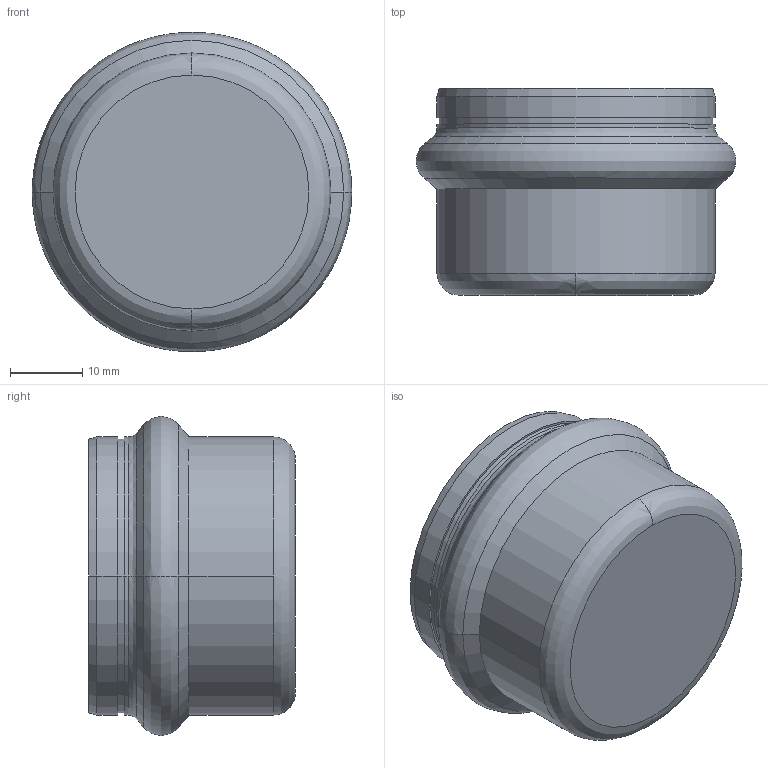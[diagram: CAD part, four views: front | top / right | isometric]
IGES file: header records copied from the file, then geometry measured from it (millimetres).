
Start section: Elysium IGES Interface
Global section: file name: C:\3d modellen sudo\S-Pr VP\SP6301V\6301VW35.igs; native system: CoCreate Modeling 17.00A  17-Jun-2010; preprocessor: CoCreate IGES_3D V2.2; author: Unknown; organization: Unknown; date: 20130129.114310; units: millimetre
Bounding box: 44.13 x 28.55 x 44.1 mm (x, y, z)
Volume: 8561.5 mm3; surface area: 9293.3 mm2
Topology: 1 solids, 1 shells, 38 faces, 78 edges, 46 vertices
Faces by surface type: bspline 38
